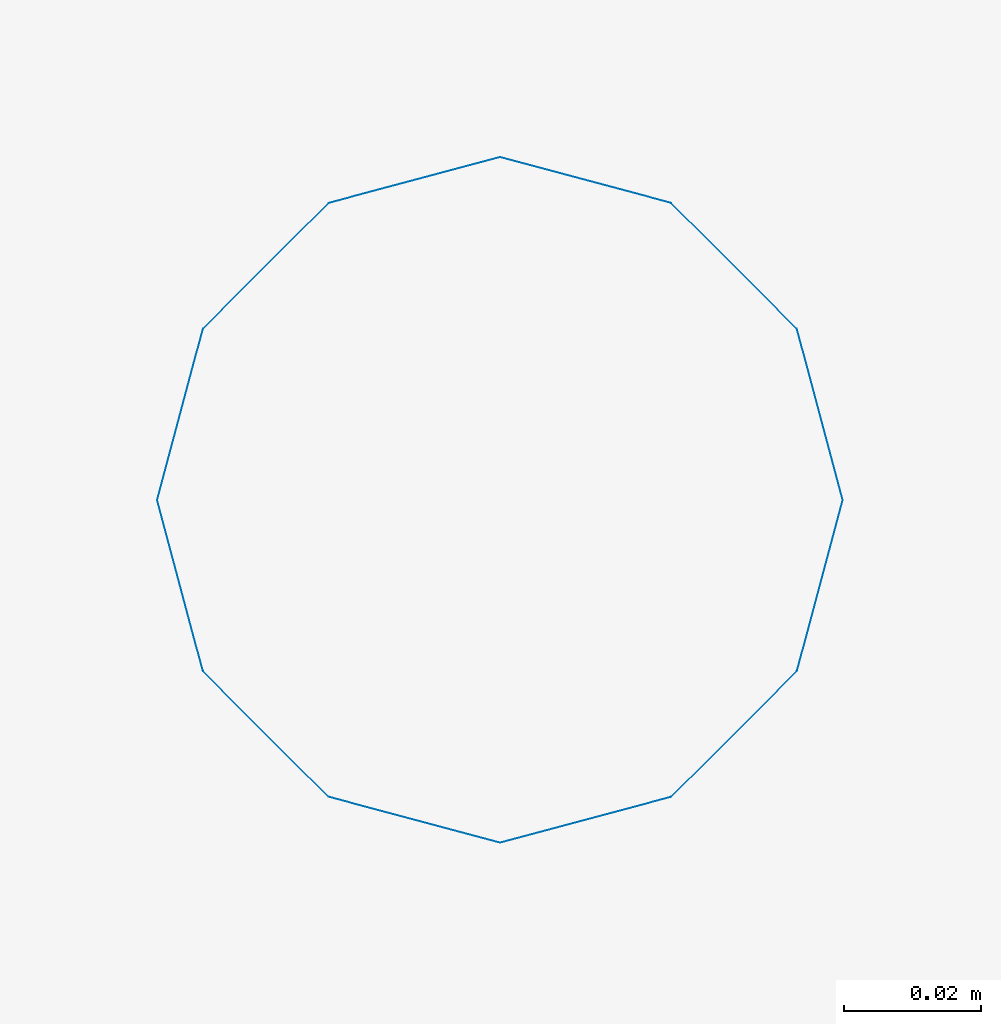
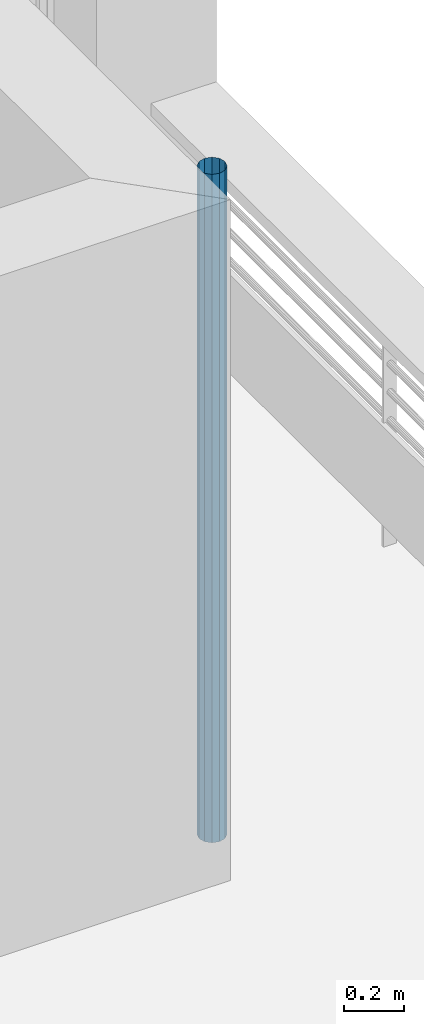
# One storey, part 76 of 164: 1 discrete accessory.
"""IFC2X3 building model written with IfcOpenShell, lengths in millimetres."""

from ifc_helpers import new_model, entity, si_unit, converted_unit, derived_unit, money_unit, direction, frame, origin_with_axes, place, context, subcontext, project, spatial, open_shell, surface_model, source, transform, mapped, type_object, element, save


model = new_model("IFC2X3")

# Units and contexts
model_context = context("Model", 3, precision=0.01, world=origin_with_axes(), true_north=direction((0.0, 1.0)))
body_context = subcontext(model_context, "Body", "Model", "MODEL_VIEW")
ifc_project = project(units=[si_unit("LENGTHUNIT", "METRE", prefix="MILLI"), si_unit("AREAUNIT", "SQUARE_METRE"), si_unit("VOLUMEUNIT", "CUBIC_METRE"), converted_unit("PLANEANGLEUNIT", "DEGREE", entity("IfcPlaneAngleMeasure", 0.0174532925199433), si_unit("PLANEANGLEUNIT", "RADIAN"), dimensions=[0, 0, 0, 0, 0, 0, 0]), money_unit("USD"), converted_unit("TIMEUNIT", "Year", entity("IfcTimeMeasure", 31557600.0), si_unit("TIMEUNIT", "SECOND"), dimensions=[0, 0, 1, 0, 0, 0, 0]), si_unit("MASSUNIT", "GRAM", prefix="KILO"), si_unit("THERMODYNAMICTEMPERATUREUNIT", "DEGREE_CELSIUS"), si_unit("LUMINOUSINTENSITYUNIT", "LUMEN"), si_unit("ENERGYUNIT", "JOULE", prefix="MEGA"), derived_unit("THERMALCONDUCTANCEUNIT", [(si_unit("POWERUNIT", "WATT"), 1), (si_unit("LENGTHUNIT", "METRE"), -1), (si_unit("THERMODYNAMICTEMPERATUREUNIT", "KELVIN"), -1)]), derived_unit("SPECIFICHEATCAPACITYUNIT", [(si_unit("ENERGYUNIT", "JOULE"), 1), (si_unit("MASSUNIT", "GRAM", prefix="KILO"), -1), (si_unit("THERMODYNAMICTEMPERATUREUNIT", "KELVIN"), -1)]), derived_unit("MASSDENSITYUNIT", [(si_unit("MASSUNIT", "GRAM", prefix="KILO"), 1), (si_unit("VOLUMEUNIT", "CUBIC_METRE"), -1)])], contexts=[model_context])

# Site, building, storey
site_placement = place(None, origin_with_axes())
site = spatial("IfcSite", under=ifc_project, at=site_placement, Name="Site", CompositionType="ELEMENT")
building_placement = place(site_placement, origin_with_axes())
building = spatial("IfcBuilding", under=site, at=building_placement, Name="Bâtiment", CompositionType="ELEMENT")
storey_placement = place(building_placement, frame((0.0, 0.0, 5750.0), z_axis=(0.0, 0.0, 1.0), x_axis=(1.0, 0.0, 0.0)))
storey = spatial("IfcBuildingStorey", under=building, at=storey_placement, Name="Etage1", CompositionType="ELEMENT", Elevation=5750.0)

# Discrete accessory
discrete_accessory_type = type_object("IfcDiscreteAccessoryType", Name="Tuyau descente 27")
shared_shape = source(origin_with_axes(), body_context, "Body", "SurfaceModel", [
    surface_model("IfcShellBasedSurfaceModel", [(50.0, 0.0, 2700.0), (43.30127018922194, -25.0, 2700.0), (43.30127018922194, -25.0, 0.0), (50.0, 0.0, 0.0), (25.00000000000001, -43.30127018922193, 2700.0), (25.00000000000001, -43.30127018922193, 0.0), (43.30127018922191, 25.00000000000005, 2700.0), (43.30127018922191, 25.00000000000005, 0.0), (0.0, -50.0, 2700.0), (0.0, -50.0, 0.0), (24.99999999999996, 43.30127018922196, 2700.0), (24.99999999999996, 43.30127018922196, 0.0), (-24.99999999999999, -43.30127018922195, 2700.0), (-24.99999999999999, -43.30127018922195, 0.0), (0.0, 50.0, 2700.0), (0.0, 50.0, 0.0), (-43.30127018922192, -25.00000000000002, 2700.0), (-43.30127018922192, -25.00000000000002, 0.0), (-25.00000000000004, 43.30127018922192, 2700.0), (-25.00000000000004, 43.30127018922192, 0.0), (-50.0, 0.0, 2700.0), (-50.0, 0.0, 0.0), (-43.30127018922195, 24.99999999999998, 2700.0), (-43.30127018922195, 24.99999999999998, 0.0)], [open_shell([[[0, 1, 2, 3]], [[1, 4, 5, 2]], [[6, 0, 3, 7]], [[4, 8, 9, 5]], [[10, 6, 7, 11]], [[8, 12, 13, 9]], [[14, 10, 11, 15]], [[12, 16, 17, 13]], [[18, 14, 15, 19]], [[16, 20, 21, 17]], [[22, 18, 19, 23]], [[20, 22, 23, 21]]])]),
])
discrete_accessory_placement = place(storey_placement, frame((2232887.150914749, -657556.9887538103, 0.0), z_axis=(0.0, 0.0, 1.0), x_axis=(1.0, 0.0, 0.0)))
element("IfcDiscreteAccessory", 1, at=discrete_accessory_placement, inside=storey, type_object=discrete_accessory_type, Name="Obj.-318", context=body_context, shape_type="MappedRepresentation", body=[
    mapped(shared_shape, transform((0.0, 0.0, 0.0))),
])

save(model, "model.ifc")
